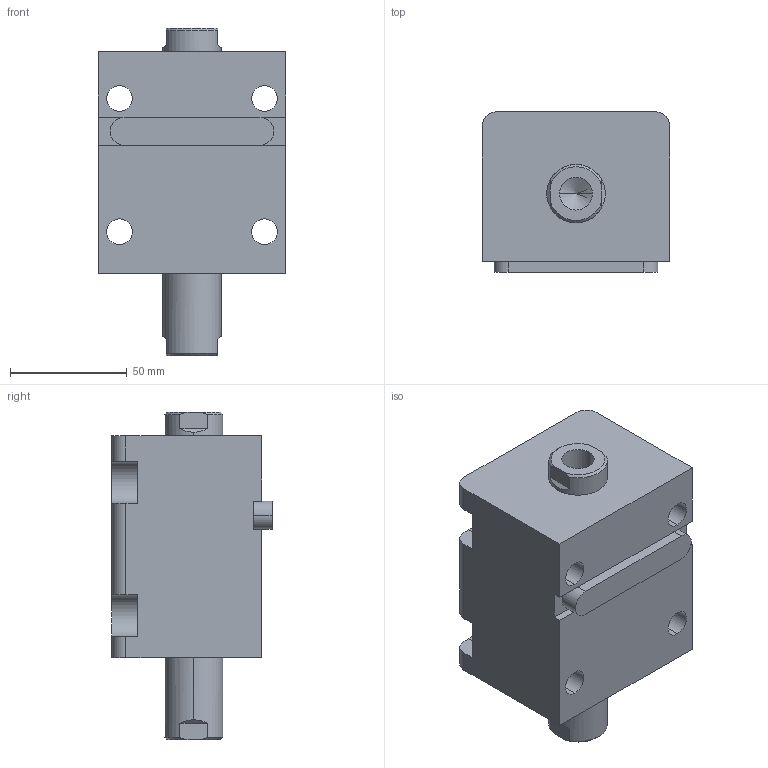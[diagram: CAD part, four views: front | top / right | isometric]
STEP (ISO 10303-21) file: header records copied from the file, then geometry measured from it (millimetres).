
FILE_DESCRIPTION (( 'STEP AP203' ), '1' );
FILE_NAME ('HTB-LW40-25N.STEP', '2019-10-09T07:54:19', ( '微软用户' ), ( '微软中国' ), 'SwSTEP 2.0', 'SolidWorks 2012', '' );
FILE_SCHEMA (( 'CONFIG_CONTROL_DESIGN' ));
Length unit declared in the file: millimetre
Products named in the file (4): HTB-LW40-25N; HTB-LW40-25掛极; HTB-LW40-25N活塞杆; HTB-LA40-瑩
Assembly tree (3 placements, depth 2):
  HTB-LW40-25N
    HTB-LW40-25掛极
    HTB-LW40-25N活塞杆
    HTB-LA40-瑩
Bounding box: 80 x 68.5 x 140 mm (x, y, z)
Volume: 448845.8 mm3; surface area: 75137.9 mm2
Topology: 3 solids, 3 shells, 105 faces, 261 edges, 168 vertices
Faces by surface type: plane 44, cylinder 41, cone 12, torus 8
Entity records: 3567 total; most frequent: CARTESIAN_POINT 588, DIRECTION 573, ORIENTED_EDGE 514, EDGE_CURVE 257, AXIS2_PLACEMENT_3D 221, VERTEX_POINT 168, LINE 131, VECTOR 131
